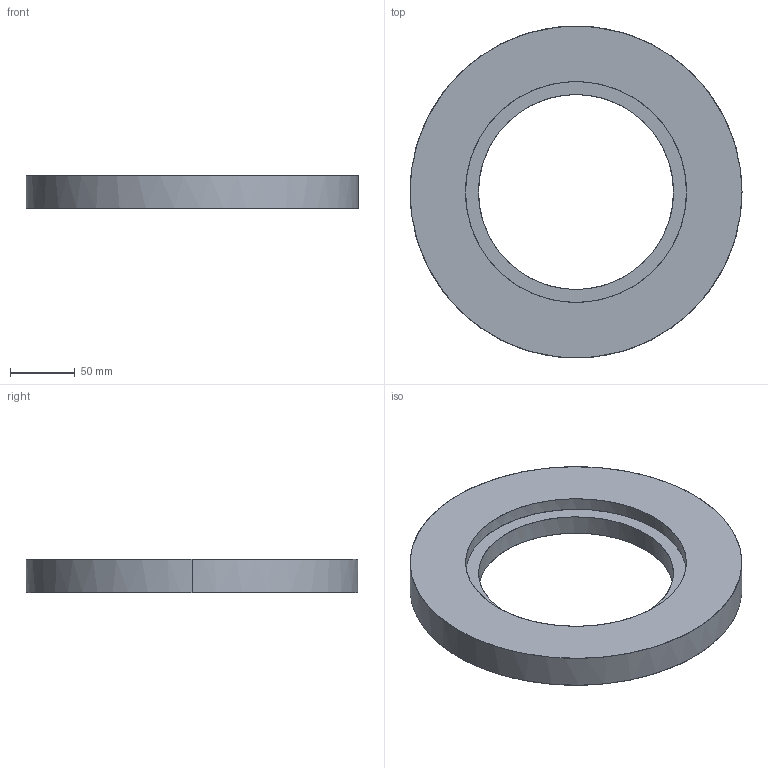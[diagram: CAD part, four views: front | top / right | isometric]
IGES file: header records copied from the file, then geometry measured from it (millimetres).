
Start section: Comment
Global section: file name: quartz_holder.iges; native system:  By UGS Corp.; preprocessor: XPlus GENERIC/IGES 3.0; author: Author; organization: Title; date: 20090504.150610; units: millimetre
Bounding box: 255.4 x 255.07 x 25.4 mm (x, y, z)
Surface area: 100096.5 mm2 (no closed solid volume)
Topology: 0 solids, 0 shells, 9 faces, 36 edges, 36 vertices
Faces by surface type: bspline 9
